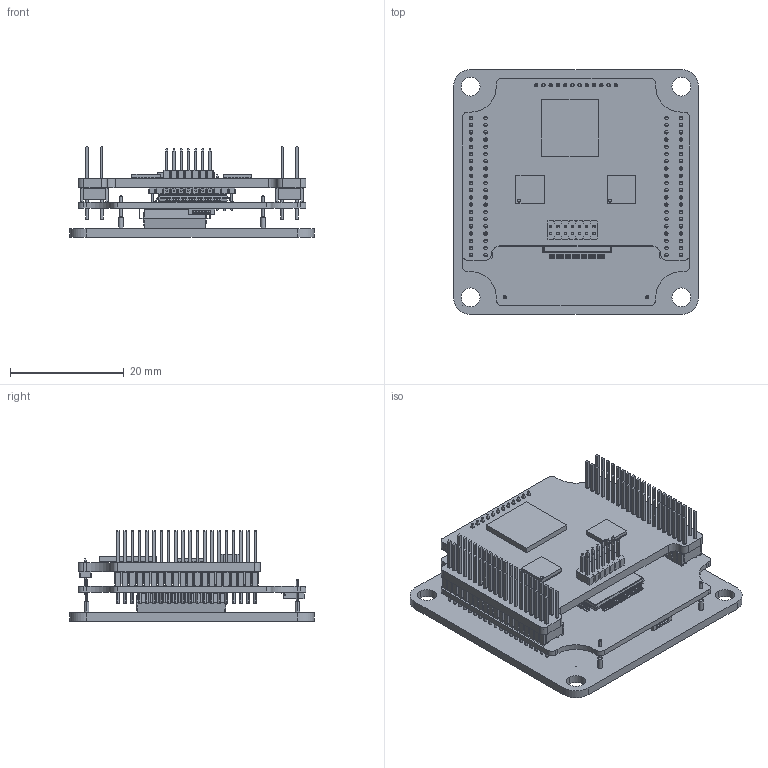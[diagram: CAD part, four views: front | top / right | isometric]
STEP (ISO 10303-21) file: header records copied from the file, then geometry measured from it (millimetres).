
FILE_DESCRIPTION(('Open CASCADE Model'),'2;1');
FILE_NAME('Open CASCADE Shape Model','2017-01-03T12:37:59',('Author'),( 'Open CASCADE'),'Open CASCADE STEP processor 6.8','Open CASCADE 6.8' ,'Unknown');
FILE_SCHEMA(('AUTOMOTIVE_DESIGN { 1 0 10303 214 1 1 1 1 }'));
Length unit declared in the file: millimetre
Products named in the file (53): PCB; Board; Free-Models; i039-01H2; P4; 62201421121; 6220xx21121; 14; P12; Sullins_GRPB121VWVN-RC; ORIGIN1; 751894032; Sphere; U13; QFN32_5x5; User_Library-QFN32_(FTDI)_Anschl_X_FCsse_1; User_Library-QFN32_(FTDI)_K_X_F6rper_1; User_Library-QFN32_(FTDI)_Beschriftung_1; U12; U11; 581840664; Extruded; 751901200; i039-01M1; i039-01H1; MOLEX_51281-0594; B3; mill-max-1267-0-00-01-00-00-03-0; B4; B2; B1; User_Library-IPC_QFP-fullQFP40P1400X1400X120-100N_MS-026ADE_VHC100A; 751901584; P1; Samtec_MTMS-120-53-G-D-285; _MTMS-120-D_terminal; _T-1M6-20-53-D-285__; P6; U14; 903808304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
Assembly tree (232 placements, depth 7):
  PCB
    Board
    Free-Models
      i039-01H2
        Board
        P4
          62201421121
            6220xx21121  x14
            14
        P12
          Sullins_GRPB121VWVN-RC
        ORIGIN1
          751894032
            Sphere
        U13
          QFN32_5x5
            User_Library-QFN32_(FTDI)_Anschl_X_FCsse_1
            User_Library-QFN32_(FTDI)_K_X_F6rper_1
            User_Library-QFN32_(FTDI)_Beschriftung_1
        U12
          QFN32_5x5
            User_Library-QFN32_(FTDI)_Anschl_X_FCsse_1
            User_Library-QFN32_(FTDI)_K_X_F6rper_1
            User_Library-QFN32_(FTDI)_Beschriftung_1
        U11
          581840664
            Extruded
          751901200  x128
            Sphere
      i039-01M1
      i039-01H1
        Board
        P4
          MOLEX_51281-0594
        B3
          mill-max-1267-0-00-01-00-00-03-0
        B4
          mill-max-1267-0-00-01-00-00-03-0
        B2
          mill-max-1267-0-00-01-00-00-03-0
        B1
          mill-max-1267-0-00-01-00-00-03-0
        U13
          User_Library-IPC_QFP-fullQFP40P1400X1400X120-100N_MS-026ADE_VHC100A
        ORIGIN1
          751901584
            Sphere
        P1
          Samtec_MTMS-120-53-G-D-285
            _MTMS-120-D_terminal
            _T-1M6-20-53-D-285__
        P6
          Samtec_MTMS-120-53-G-D-285
            _MTMS-120-D_terminal
            _T-1M6-20-53-D-285__
        U14
          903808304
            Open_CASCADE_STEP_translator_6.8_19.1
            Body
              Open_CASCADE_STEP_translator_6.8_19.2.1
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Bounding box: 43 x 43 x 15.88 mm (x, y, z)
Volume: 7713.9 mm3; surface area: 15668.8 mm2
Topology: 223 solids, 226 shells, 7627 faces, 19688 edges, 12311 vertices
Faces by surface type: plane 6312, cylinder 1063, sphere 140, cone 104, bspline 8
Full cylindrical faces by diameter (mm): 0.6 x202, 1.387 x1, 4 x1
Entity records: 386593 total; most frequent: CARTESIAN_POINT 122901, DIRECTION 42335, LINE 28947, VECTOR 28947, ORIENTED_EDGE 23773, PCURVE 23753, DEFINITIONAL_REPRESENTATION 23753, EDGE_CURVE 11878
